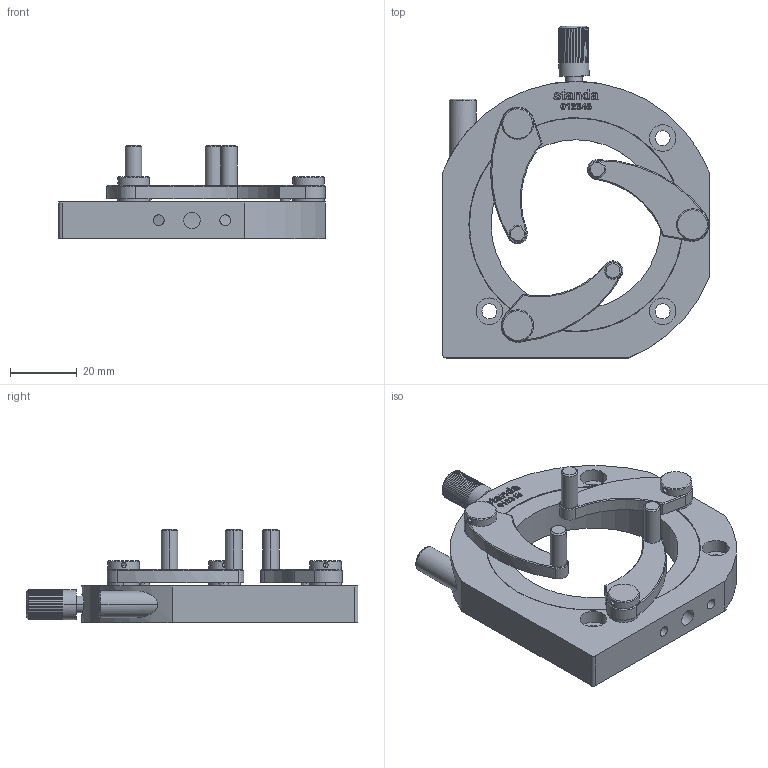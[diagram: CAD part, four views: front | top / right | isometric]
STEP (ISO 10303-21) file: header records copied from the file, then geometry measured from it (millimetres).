
FILE_DESCRIPTION (( 'STEP AP203' ), '1' );
FILE_NAME ('4SCML-2.STEP', '2010-02-21T09:09:57', ( 'Darius' ), ( '' ), 'SwSTEP 2.0', 'SolidWorks 2003240', '' );
FILE_SCHEMA (( 'CONFIG_CONTROL_DESIGN' ));
Length unit declared in the file: millimetre
Products named in the file (1): 4SCML-2
Bounding box: 80 x 99.65 x 28 mm (x, y, z)
Volume: 46718.7 mm3; surface area: 19362.1 mm2
Topology: 1 solids, 1 shells, 447 faces, 1178 edges, 759 vertices
Faces by surface type: plane 189, bspline 118, cylinder 100, cone 40
Entity records: 16546 total; most frequent: CARTESIAN_POINT 6401, ORIENTED_EDGE 2332, DIRECTION 1653, EDGE_CURVE 1166, VERTEX_POINT 759, AXIS2_PLACEMENT_3D 553, VECTOR 547, LINE 547
